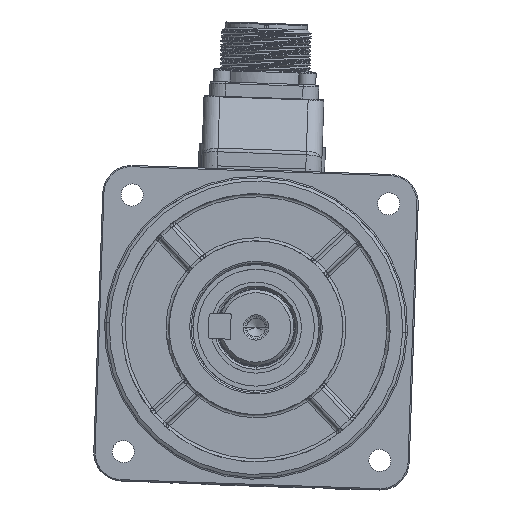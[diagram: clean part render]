
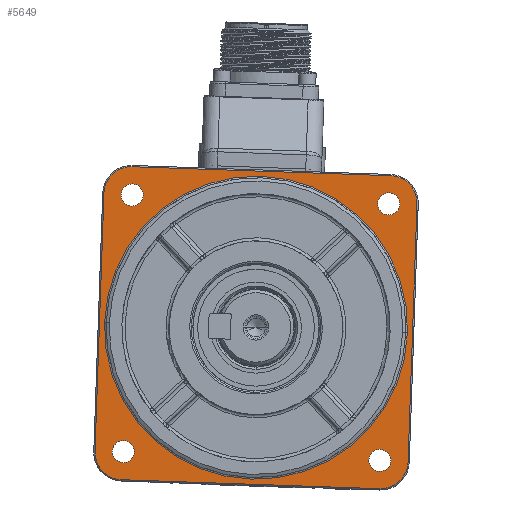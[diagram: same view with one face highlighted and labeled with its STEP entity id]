
A CAD part, top view. The second image highlights one B-rep face of the part: STEP entity #5649.
In plain terms, the highlighted planar face has unit normal (0, 0, 1) as drawn and (0, 1, 0) by its records, which use the part's own axes.
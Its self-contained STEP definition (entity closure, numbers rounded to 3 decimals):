
#150=CARTESIAN_POINT('',(0.,0.,0.));
#151=DIRECTION('',(0.,-1.,0.));
#152=DIRECTION('',(-1.,0.,0.006));
#153=AXIS2_PLACEMENT_3D('',#150,#151,#152);
#170=CARTESIAN_POINT('',(0.,0.,0.));
#171=DIRECTION('',(0.,-1.,0.));
#172=DIRECTION('',(1.,0.,-0.006));
#173=AXIS2_PLACEMENT_3D('',#170,#171,#172);
#175=CARTESIAN_POINT('',(-41.,0.,-41.));
#176=DIRECTION('',(0.,-1.,0.));
#177=DIRECTION('',(-1.,0.,0.));
#178=AXIS2_PLACEMENT_3D('',#175,#176,#177);
#180=CARTESIAN_POINT('',(41.,0.,-41.));
#181=DIRECTION('',(0.,-1.,0.));
#182=DIRECTION('',(0.,0.,-1.));
#183=AXIS2_PLACEMENT_3D('',#180,#181,#182);
#185=CARTESIAN_POINT('',(41.,0.,41.));
#186=DIRECTION('',(0.,-1.,0.));
#187=DIRECTION('',(1.,0.,0.));
#188=AXIS2_PLACEMENT_3D('',#185,#186,#187);
#190=CARTESIAN_POINT('',(-41.,0.,41.));
#191=DIRECTION('',(0.,-1.,0.));
#192=DIRECTION('',(0.,0.,1.));
#193=AXIS2_PLACEMENT_3D('',#190,#191,#192);
#195=CARTESIAN_POINT('',(-40.659,0.,-40.659));
#196=DIRECTION('',(0.,1.,0.));
#197=DIRECTION('',(0.,0.,1.));
#198=AXIS2_PLACEMENT_3D('',#195,#196,#197);
#200=CARTESIAN_POINT('',(-40.659,0.,-40.659));
#201=DIRECTION('',(0.,1.,0.));
#202=DIRECTION('',(0.,0.,-1.));
#203=AXIS2_PLACEMENT_3D('',#200,#201,#202);
#205=CARTESIAN_POINT('',(-40.659,0.,40.659));
#206=DIRECTION('',(0.,1.,0.));
#207=DIRECTION('',(1.,0.,0.));
#208=AXIS2_PLACEMENT_3D('',#205,#206,#207);
#210=CARTESIAN_POINT('',(-40.659,0.,40.659));
#211=DIRECTION('',(0.,1.,0.));
#212=DIRECTION('',(-1.,0.,0.));
#213=AXIS2_PLACEMENT_3D('',#210,#211,#212);
#215=CARTESIAN_POINT('',(40.659,0.,40.659));
#216=DIRECTION('',(0.,1.,0.));
#217=DIRECTION('',(0.,0.,-1.));
#218=AXIS2_PLACEMENT_3D('',#215,#216,#217);
#220=CARTESIAN_POINT('',(40.659,0.,40.659));
#221=DIRECTION('',(0.,1.,0.));
#222=DIRECTION('',(0.,0.,1.));
#223=AXIS2_PLACEMENT_3D('',#220,#221,#222);
#225=CARTESIAN_POINT('',(0.,0.,0.));
#226=DIRECTION('',(0.,1.,0.));
#227=DIRECTION('',(-1.,0.,0.006));
#228=AXIS2_PLACEMENT_3D('',#225,#226,#227);
#230=CARTESIAN_POINT('',(0.,0.,0.));
#231=DIRECTION('',(0.,1.,0.));
#232=DIRECTION('',(1.,0.,-0.006));
#233=AXIS2_PLACEMENT_3D('',#230,#231,#232);
#235=CARTESIAN_POINT('',(40.659,0.,-40.659));
#236=DIRECTION('',(0.,1.,0.));
#237=DIRECTION('',(-1.,0.,0.));
#238=AXIS2_PLACEMENT_3D('',#235,#236,#237);
#240=CARTESIAN_POINT('',(40.659,0.,-40.659));
#241=DIRECTION('',(0.,1.,0.));
#242=DIRECTION('',(1.,0.,0.));
#243=AXIS2_PLACEMENT_3D('',#240,#241,#242);
#254=DIRECTION('',(0.,0.,1.));
#255=VECTOR('',#254,82.);
#256=CARTESIAN_POINT('',(-49.6,0.,
-41.));
#257=LINE('',#256,#255);
#271=DIRECTION('',(1.,0.,0.));
#272=VECTOR('',#271,82.);
#273=CARTESIAN_POINT('',(-41.,0.,
49.6));
#274=LINE('',#273,#272);
#288=DIRECTION('',(0.,0.,-1.));
#289=VECTOR('',#288,82.);
#290=CARTESIAN_POINT('',(49.6,0.,41.));
#291=LINE('',#290,#289);
#305=DIRECTION('',(-1.,0.,0.));
#306=VECTOR('',#305,82.);
#307=CARTESIAN_POINT('',(41.,0.,
-49.6));
#308=LINE('',#307,#306);
#4382=CARTESIAN_POINT('',(48.,0.,0.));
#4383=VERTEX_POINT('',#4382);
#4384=CARTESIAN_POINT('',(-47.999,0.,0.268));
#4385=VERTEX_POINT('',#4384);
#4386=CARTESIAN_POINT('',(-48.,0.,0.));
#4387=VERTEX_POINT('',#4386);
#4388=CARTESIAN_POINT('',(47.999,0.,-0.268));
#4389=VERTEX_POINT('',#4388);
#4390=CARTESIAN_POINT('',(-49.6,0.,-41.));
#4391=CARTESIAN_POINT('',(-41.,0.,-49.6));
#4392=VERTEX_POINT('',#4390);
#4393=VERTEX_POINT('',#4391);
#4394=CARTESIAN_POINT('',(41.,0.,
-49.6));
#4395=VERTEX_POINT('',#4394);
#4396=CARTESIAN_POINT('',(49.6,0.,-41.));
#4397=VERTEX_POINT('',#4396);
#4398=CARTESIAN_POINT('',(49.6,0.,
41.));
#4399=VERTEX_POINT('',#4398);
#4400=CARTESIAN_POINT('',(41.,0.,49.6));
#4401=VERTEX_POINT('',#4400);
#4402=CARTESIAN_POINT('',(-41.,0.,
49.6));
#4403=VERTEX_POINT('',#4402);
#4404=CARTESIAN_POINT('',(-49.6,0.,41.));
#4405=VERTEX_POINT('',#4404);
#4406=CARTESIAN_POINT('',(-40.659,0.,-37.159));
#4407=CARTESIAN_POINT('',(-40.659,0.,-44.159));
#4408=VERTEX_POINT('',#4406);
#4409=VERTEX_POINT('',#4407);
#4410=CARTESIAN_POINT('',(-37.159,0.,40.659));
#4411=CARTESIAN_POINT('',(-44.159,0.,40.659));
#4412=VERTEX_POINT('',#4410);
#4413=VERTEX_POINT('',#4411);
#4414=CARTESIAN_POINT('',(40.659,0.,37.159));
#4415=CARTESIAN_POINT('',(40.659,0.,44.159));
#4416=VERTEX_POINT('',#4414);
#4417=VERTEX_POINT('',#4415);
#4418=CARTESIAN_POINT('',(37.159,0.,-40.659));
#4419=CARTESIAN_POINT('',(44.159,0.,-40.659));
#4420=VERTEX_POINT('',#4418);
#4421=VERTEX_POINT('',#4419);
#5596=CARTESIAN_POINT('',(0.,0.,0.));
#5597=DIRECTION('',(0.,-1.,0.));
#5598=DIRECTION('',(-1.,0.,0.));
#5599=AXIS2_PLACEMENT_3D('',#5596,#5597,#5598);
#5600=PLANE('',#5599);
#5602=ORIENTED_EDGE('',*,*,#5601,.T.);
#5604=ORIENTED_EDGE('',*,*,#5603,.F.);
#5606=ORIENTED_EDGE('',*,*,#5605,.T.);
#5608=ORIENTED_EDGE('',*,*,#5607,.F.);
#5610=ORIENTED_EDGE('',*,*,#5609,.T.);
#5612=ORIENTED_EDGE('',*,*,#5611,.F.);
#5614=ORIENTED_EDGE('',*,*,#5613,.T.);
#5616=ORIENTED_EDGE('',*,*,#5615,.F.);
#5617=EDGE_LOOP('',(#5602,#5604,#5606,#5608,#5610,#5612,#5614,#5616));
#5618=FACE_OUTER_BOUND('',#5617,.F.);
#5620=ORIENTED_EDGE('',*,*,#5619,.T.);
#5622=ORIENTED_EDGE('',*,*,#5621,.T.);
#5623=EDGE_LOOP('',(#5620,#5622));
#5624=FACE_BOUND('',#5623,.F.);
#5626=ORIENTED_EDGE('',*,*,#5625,.T.);
#5628=ORIENTED_EDGE('',*,*,#5627,.T.);
#5629=EDGE_LOOP('',(#5626,#5628));
#5630=FACE_BOUND('',#5629,.F.);
#5632=ORIENTED_EDGE('',*,*,#5631,.T.);
#5634=ORIENTED_EDGE('',*,*,#5633,.T.);
#5635=EDGE_LOOP('',(#5632,#5634));
#5636=FACE_BOUND('',#5635,.F.);
#5637=ORIENTED_EDGE('',*,*,#5573,.F.);
#5638=ORIENTED_EDGE('',*,*,#5571,.T.);
#5639=ORIENTED_EDGE('',*,*,#5590,.F.);
#5640=ORIENTED_EDGE('',*,*,#5588,.T.);
#5641=EDGE_LOOP('',(#5637,#5638,#5639,#5640));
#5642=FACE_BOUND('',#5641,.F.);
#5644=ORIENTED_EDGE('',*,*,#5643,.T.);
#5646=ORIENTED_EDGE('',*,*,#5645,.T.);
#5647=EDGE_LOOP('',(#5644,#5646));
#5648=FACE_BOUND('',#5647,.F.);
#5649=ADVANCED_FACE('',(#5618,#5624,#5630,#5636,#5642,#5648),#5600,.F.);
#154=CIRCLE('',#153,48.);
#174=CIRCLE('',#173,48.);
#179=CIRCLE('',#178,8.6);
#184=CIRCLE('',#183,8.6);
#189=CIRCLE('',#188,8.6);
#194=CIRCLE('',#193,8.6);
#199=CIRCLE('',#198,3.5);
#204=CIRCLE('',#203,3.5);
#209=CIRCLE('',#208,3.5);
#214=CIRCLE('',#213,3.5);
#219=CIRCLE('',#218,3.5);
#224=CIRCLE('',#223,3.5);
#229=CIRCLE('',#228,48.);
#234=CIRCLE('',#233,48.);
#239=CIRCLE('',#238,3.5);
#244=CIRCLE('',#243,3.5);
#5571=EDGE_CURVE('',#4385,#4383,#229,.T.);
#5573=EDGE_CURVE('',#4385,#4387,#154,.T.);
#5588=EDGE_CURVE('',#4389,#4387,#234,.T.);
#5590=EDGE_CURVE('',#4389,#4383,#174,.T.);
#5601=EDGE_CURVE('',#4392,#4393,#179,.T.);
#5603=EDGE_CURVE('',#4395,#4393,#308,.T.);
#5605=EDGE_CURVE('',#4395,#4397,#184,.T.);
#5607=EDGE_CURVE('',#4399,#4397,#291,.T.);
#5609=EDGE_CURVE('',#4399,#4401,#189,.T.);
#5611=EDGE_CURVE('',#4403,#4401,#274,.T.);
#5613=EDGE_CURVE('',#4403,#4405,#194,.T.);
#5615=EDGE_CURVE('',#4392,#4405,#257,.T.);
#5619=EDGE_CURVE('',#4408,#4409,#199,.T.);
#5621=EDGE_CURVE('',#4409,#4408,#204,.T.);
#5625=EDGE_CURVE('',#4412,#4413,#209,.T.);
#5627=EDGE_CURVE('',#4413,#4412,#214,.T.);
#5631=EDGE_CURVE('',#4416,#4417,#219,.T.);
#5633=EDGE_CURVE('',#4417,#4416,#224,.T.);
#5643=EDGE_CURVE('',#4420,#4421,#239,.T.);
#5645=EDGE_CURVE('',#4421,#4420,#244,.T.);
